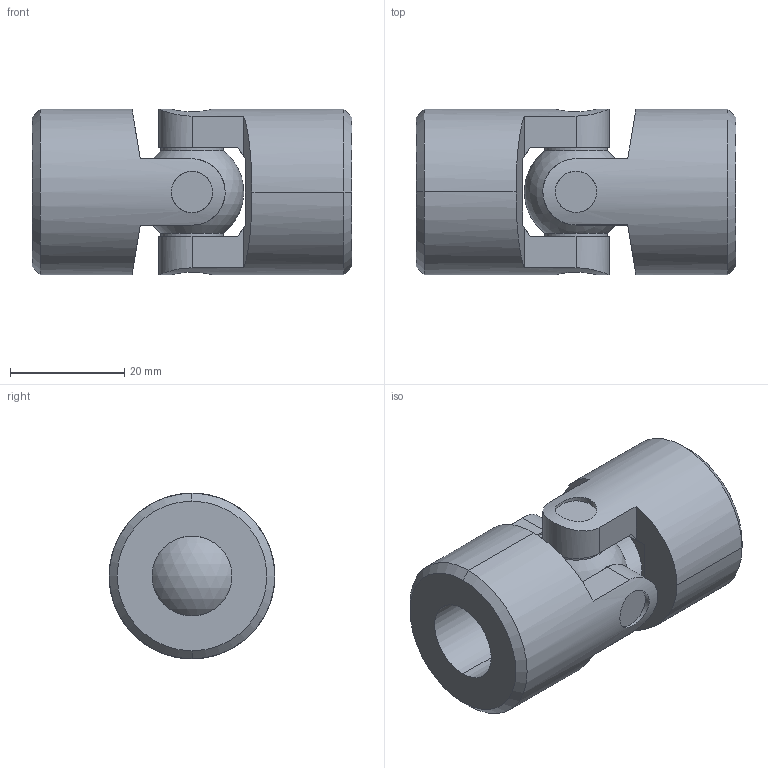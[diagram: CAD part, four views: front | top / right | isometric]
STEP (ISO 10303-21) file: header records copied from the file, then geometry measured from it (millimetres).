
FILE_DESCRIPTION(('modularis output'),'2;1');
FILE_NAME('631 229 00 Gelenk 14.stp','11:07:22 2005/09/05',( 'modularis software ag'),('modularis software ag'), 'unknown preprocess','ACIS','unknown authorization');
FILE_SCHEMA(('AUTOMOTIVE_DESIGN_CC2 {UNKNOWN IMPLEMENTATION LEVEL}'));
Length unit declared in the file: millimetre
Products named in the file (1): PRODUCT_ID_2
Bounding box: 56 x 29 x 29 mm (x, y, z)
Volume: 25473.1 mm3; surface area: 9055.3 mm2
Topology: 1 solids, 1 shells, 63 faces, 173 edges, 116 vertices
Faces by surface type: plane 30, cylinder 28, cone 4, sphere 1
Entity records: 2713 total; most frequent: CARTESIAN_POINT 699, ORIENTED_EDGE 344, DIRECTION 234, EDGE_CURVE 172, VERTEX_POINT 116, VECTOR 84, LINE 84, EDGE_LOOP 76
